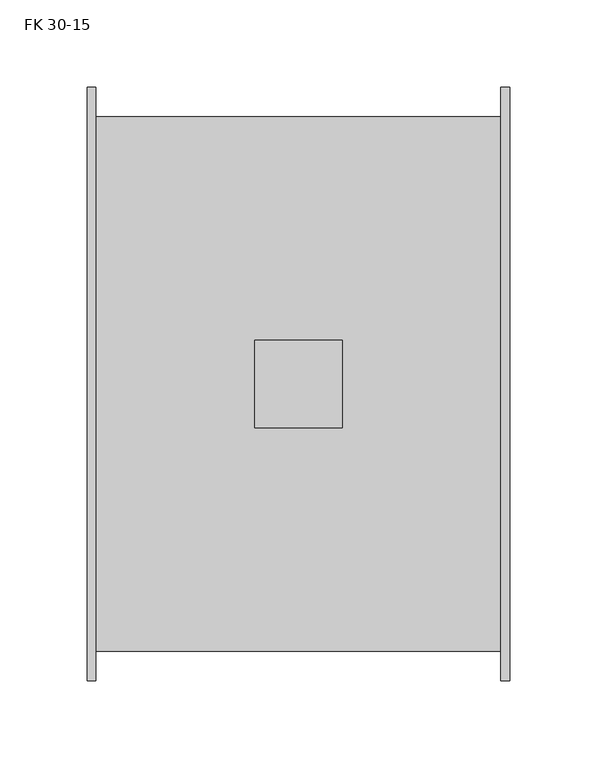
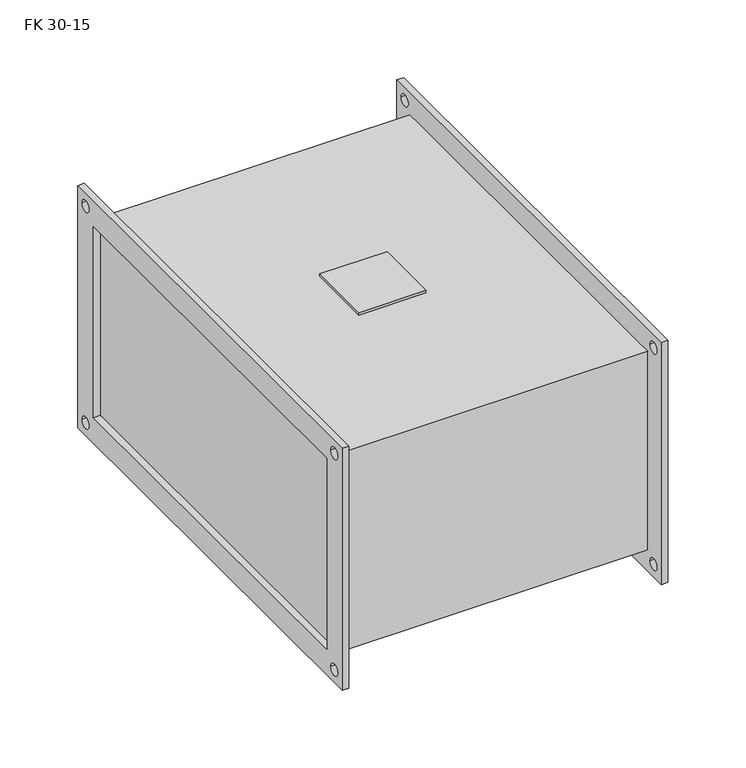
"""IFC4 building model written with IfcOpenShell, lengths in millimetres: damper geometry, KORF_Фильтр_Кассетный_FK : FK 30-15."""

from ifc_helpers import new_model, si_unit, point, frame, frame_2d, origin, place, context, project, spatial, polyline, circle_curve, trimmed, segment, composite_curve, outline, extrude, source, transform, mapped, element, save


def fk_30_15_0ff2b426(model_context):
    return source(origin(), model_context, "Body", "SweptSolid", [
        extrude(outline(polyline([(96.0, -25.0), (96.0, 25.0), (146.0, 25.0), (146.0, -25.0), (96.0, -25.0)])), frame((0.0, 0.0, 78.0), z_axis=(0.0, 0.0, 1.0), x_axis=(1.0, 0.0, 0.0)), (0.0, 0.0, 1.0), 2.0),
        extrude(outline(polyline([(-170.0, 95.0), (170.0, 95.0), (170.0, -95.0), (-170.0, -95.0), (-170.0, 95.0)]), holes=[polyline([(-150.0, 75.0), (-150.0, -75.0), (150.0, -75.0), (150.0, 75.0), (-150.0, 75.0)]), composite_curve([segment(trimmed(circle_curve(frame_2d((160.0, 85.0)), 4.5), [point((155.5, 85.0))], [point((164.5, 85.0))], True, "CARTESIAN"), True, "CONTINUOUS"), segment(trimmed(circle_curve(frame_2d((160.0, 85.0)), 4.5), [point((164.5, 85.0))], [point((155.5, 85.0))], True, "CARTESIAN"), True, "CONTINUOUS")], self_intersect=False), composite_curve([segment(trimmed(circle_curve(frame_2d((-160.0, 85.0)), 4.5), [point((-164.5, 85.0))], [point((-155.5, 85.0))], True, "CARTESIAN"), True, "CONTINUOUS"), segment(trimmed(circle_curve(frame_2d((-160.0, 85.0)), 4.5), [point((-155.5, 85.0))], [point((-164.5, 85.0))], True, "CARTESIAN"), True, "CONTINUOUS")], self_intersect=False), composite_curve([segment(trimmed(circle_curve(frame_2d((-160.0, -85.0)), 4.5), [point((-164.5, -85.0))], [point((-155.5, -85.0))], True, "CARTESIAN"), True, "CONTINUOUS"), segment(trimmed(circle_curve(frame_2d((-160.0, -85.0)), 4.5), [point((-155.5, -85.0))], [point((-164.5, -85.0))], True, "CARTESIAN"), True, "CONTINUOUS")], self_intersect=False), composite_curve([segment(trimmed(circle_curve(frame_2d((160.0, -85.0)), 4.5), [point((155.5, -85.0))], [point((164.5, -85.0))], True, "CARTESIAN"), True, "CONTINUOUS"), segment(trimmed(circle_curve(frame_2d((160.0, -85.0)), 4.5), [point((164.5, -85.0))], [point((155.5, -85.0))], True, "CARTESIAN"), True, "CONTINUOUS")], self_intersect=False)]), frame((237.0, 0.0, 0.0), z_axis=(1.0, 0.0, 0.0), x_axis=(0.0, 1.0, 0.0)), (0.0, 0.0, 1.0), 5.0),
        extrude(outline(polyline([(-170.0, 95.0), (170.0, 95.0), (170.0, -95.0), (-170.0, -95.0), (-170.0, 95.0)]), holes=[polyline([(-150.0, 75.0), (-150.0, -75.0), (150.0, -75.0), (150.0, 75.0), (-150.0, 75.0)]), composite_curve([segment(trimmed(circle_curve(frame_2d((160.0, 85.0)), 4.5), [point((155.5, 85.0))], [point((164.5, 85.0))], True, "CARTESIAN"), True, "CONTINUOUS"), segment(trimmed(circle_curve(frame_2d((160.0, 85.0)), 4.5), [point((164.5, 85.0))], [point((155.5, 85.0))], True, "CARTESIAN"), True, "CONTINUOUS")], self_intersect=False), composite_curve([segment(trimmed(circle_curve(frame_2d((-160.0, 85.0)), 4.5), [point((-164.5, 85.0))], [point((-155.5, 85.0))], True, "CARTESIAN"), True, "CONTINUOUS"), segment(trimmed(circle_curve(frame_2d((-160.0, 85.0)), 4.5), [point((-155.5, 85.0))], [point((-164.5, 85.0))], True, "CARTESIAN"), True, "CONTINUOUS")], self_intersect=False), composite_curve([segment(trimmed(circle_curve(frame_2d((-160.0, -85.0)), 4.5), [point((-164.5, -85.0))], [point((-155.5, -85.0))], True, "CARTESIAN"), True, "CONTINUOUS"), segment(trimmed(circle_curve(frame_2d((-160.0, -85.0)), 4.5), [point((-155.5, -85.0))], [point((-164.5, -85.0))], True, "CARTESIAN"), True, "CONTINUOUS")], self_intersect=False), composite_curve([segment(trimmed(circle_curve(frame_2d((160.0, -85.0)), 4.5), [point((155.5, -85.0))], [point((164.5, -85.0))], True, "CARTESIAN"), True, "CONTINUOUS"), segment(trimmed(circle_curve(frame_2d((160.0, -85.0)), 4.5), [point((164.5, -85.0))], [point((155.5, -85.0))], True, "CARTESIAN"), True, "CONTINUOUS")], self_intersect=False)]), frame((0.0, 0.0, 0.0), z_axis=(1.0, 0.0, 0.0), x_axis=(0.0, 1.0, 0.0)), (0.0, 0.0, 1.0), 5.0),
        extrude(outline(polyline([(237.0, 153.0), (237.0, -153.0), (5.0, -153.0), (5.0, 153.0), (237.0, 153.0)])), frame((0.0, 0.0, -78.0), z_axis=(0.0, 0.0, 1.0), x_axis=(1.0, 0.0, 0.0)), (0.0, 0.0, 1.0), 156.0),
    ])


if __name__ == "__main__":
    model = new_model("IFC4")
    model_context = context("Model", 3, world=origin())
    ifc_project = project(units=[si_unit("LENGTHUNIT", "METRE", prefix="MILLI")], contexts=[model_context])
    site = spatial("IfcSite", under=ifc_project)
    building = spatial("IfcBuilding", under=site)
    placement = place(None, origin())
    fk_30_15_shape = fk_30_15_0ff2b426(model_context)
    element("IfcDamper", 1, ObjectType="KORF_Фильтр_Кассетный_FK : FK 30-15", at=placement, inside=building, context=model_context, shape_type="MappedRepresentation", body=[
        mapped(fk_30_15_shape, transform((0.0, 0.0, 0.0), x_axis=(1.0, 0.0, 0.0), y_axis=(0.0, 1.0, 0.0), z_axis=(0.0, 0.0, 1.0))),
    ])
    save(model, "model.ifc")
